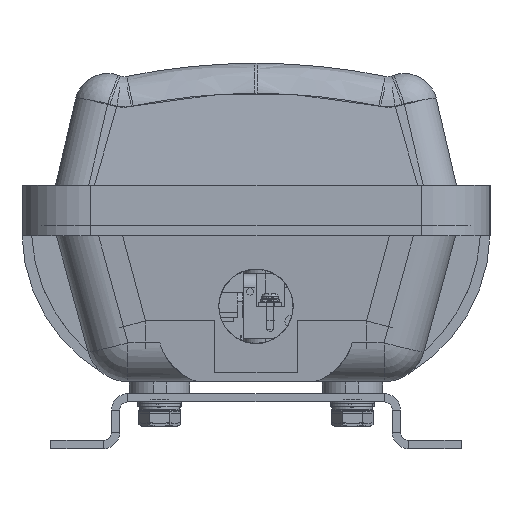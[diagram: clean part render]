
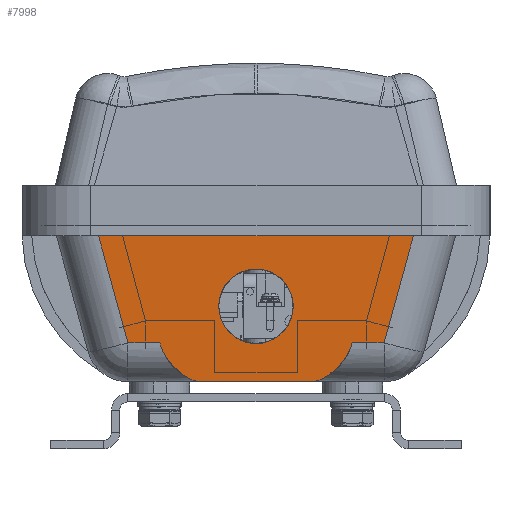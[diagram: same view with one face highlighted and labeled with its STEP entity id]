
A CAD part, left-side view. The second image highlights one B-rep face of the part: STEP entity #7998.
In plain terms, the highlighted planar face has unit normal (-0.998, 0, -0.057).
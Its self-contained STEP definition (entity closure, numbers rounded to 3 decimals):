
#3045=CARTESIAN_POINT('',(-655.0,57.181,53.));
#3046=VERTEX_POINT('',#3045);
#3054=CARTESIAN_POINT('',(-655.0,-57.181,53.));
#3055=VERTEX_POINT('',#3054);
#3056=CARTESIAN_POINT('',(-655.0,57.181,53.));
#3057=DIRECTION('',(0.0,-1.0,0.0));
#3058=VECTOR('',#3057,114.361);
#3059=LINE('',#3056,#3058);
#3060=EDGE_CURVE('',#3046,#3055,#3059,.T.);
#7738=CARTESIAN_POINT('',(-652.785,0.,13.863));
#7739=VERTEX_POINT('',#7738);
#7740=CARTESIAN_POINT('',(-653.548,0.,27.341));
#7741=DIRECTION('',(0.998,0.,0.057));
#7742=DIRECTION('',(-0.057,0.,0.998));
#7743=AXIS2_PLACEMENT_3D('',#7740,#7741,#7742);
#7744=CIRCLE('',#7743,13.5);
#7745=EDGE_CURVE('',#7739,#7739,#7744,.T.);
#7897=CARTESIAN_POINT('',(-652.,21.293,0.0));
#7898=VERTEX_POINT('',#7897);
#7906=CARTESIAN_POINT('',(-652.801,35.0,14.152));
#7907=VERTEX_POINT('',#7906);
#7908=CARTESIAN_POINT('',(-653.119,15.0,19.768));
#7909=DIRECTION('',(-0.998,0.,-0.057));
#7910=DIRECTION('',(-0.056,0.12,0.991));
#7911=AXIS2_PLACEMENT_3D('',#7908,#7909,#7910);
#7912=CIRCLE('',#7911,20.776);
#7913=EDGE_CURVE('',#7907,#7898,#7912,.T.);
#7941=CARTESIAN_POINT('',(-652.,58.,0.0));
#7942=DIRECTION('',(-0.998,0.,-0.057));
#7943=DIRECTION('',(-0.057,0.,0.998));
#7944=AXIS2_PLACEMENT_3D('',#7941,#7942,#7943);
#7945=PLANE('',#7944);
#7946=CARTESIAN_POINT('',(-652.,-21.293,0.0));
#7947=VERTEX_POINT('',#7946);
#7948=CARTESIAN_POINT('',(-652.,21.293,0.0));
#7949=DIRECTION('',(0.0,-1.0,0.0));
#7950=VECTOR('',#7949,42.586);
#7951=LINE('',#7948,#7950);
#7952=EDGE_CURVE('',#7898,#7947,#7951,.T.);
#7953=ORIENTED_EDGE('',*,*,#7952,.T.);
#7954=CARTESIAN_POINT('',(-652.801,-35.0,14.152));
#7955=VERTEX_POINT('',#7954);
#7956=CARTESIAN_POINT('',(-653.119,-15.0,19.768));
#7957=DIRECTION('',(-0.998,0.,-0.057));
#7958=DIRECTION('',(-0.015,0.963,0.27));
#7959=AXIS2_PLACEMENT_3D('',#7956,#7957,#7958);
#7960=CIRCLE('',#7959,20.776);
#7961=EDGE_CURVE('',#7947,#7955,#7960,.T.);
#7962=ORIENTED_EDGE('',*,*,#7961,.T.);
#7963=CARTESIAN_POINT('',(-652.801,-46.553,14.152));
#7964=VERTEX_POINT('',#7963);
#7965=CARTESIAN_POINT('',(-652.801,-46.553,14.152));
#7966=DIRECTION('',(0.0,1.0,0.0));
#7967=VECTOR('',#7966,11.553);
#7968=LINE('',#7965,#7967);
#7969=EDGE_CURVE('',#7964,#7955,#7968,.T.);
#7970=ORIENTED_EDGE('',*,*,#7969,.F.);
#7971=CARTESIAN_POINT('',(-655.0,-57.181,53.));
#7972=DIRECTION('',(0.055,0.263,-0.963));
#7973=VECTOR('',#7972,40.335);
#7974=LINE('',#7971,#7973);
#7975=EDGE_CURVE('',#3055,#7964,#7974,.T.);
#7976=ORIENTED_EDGE('',*,*,#7975,.F.);
#7977=ORIENTED_EDGE('',*,*,#3060,.F.);
#7978=CARTESIAN_POINT('',(-652.801,46.553,14.152));
#7979=VERTEX_POINT('',#7978);
#7980=CARTESIAN_POINT('',(-652.801,46.553,14.152));
#7981=DIRECTION('',(-0.055,0.263,0.963));
#7982=VECTOR('',#7981,40.335);
#7983=LINE('',#7980,#7982);
#7984=EDGE_CURVE('',#7979,#3046,#7983,.T.);
#7985=ORIENTED_EDGE('',*,*,#7984,.F.);
#7986=CARTESIAN_POINT('',(-652.801,35.0,14.152));
#7987=DIRECTION('',(0.0,1.0,0.0));
#7988=VECTOR('',#7987,11.553);
#7989=LINE('',#7986,#7988);
#7990=EDGE_CURVE('',#7907,#7979,#7989,.T.);
#7991=ORIENTED_EDGE('',*,*,#7990,.F.);
#7992=ORIENTED_EDGE('',*,*,#7913,.T.);
#7993=EDGE_LOOP('',(#7953,#7962,#7970,#7976,#7977,#7985,#7991,#7992));
#7994=FACE_OUTER_BOUND('',#7993,.T.);
#7995=ORIENTED_EDGE('',*,*,#7745,.T.);
#7996=EDGE_LOOP('',(#7995));
#7997=FACE_BOUND('',#7996,.T.);
#7998=ADVANCED_FACE('',(#7994,#7997),#7945,.T.);
